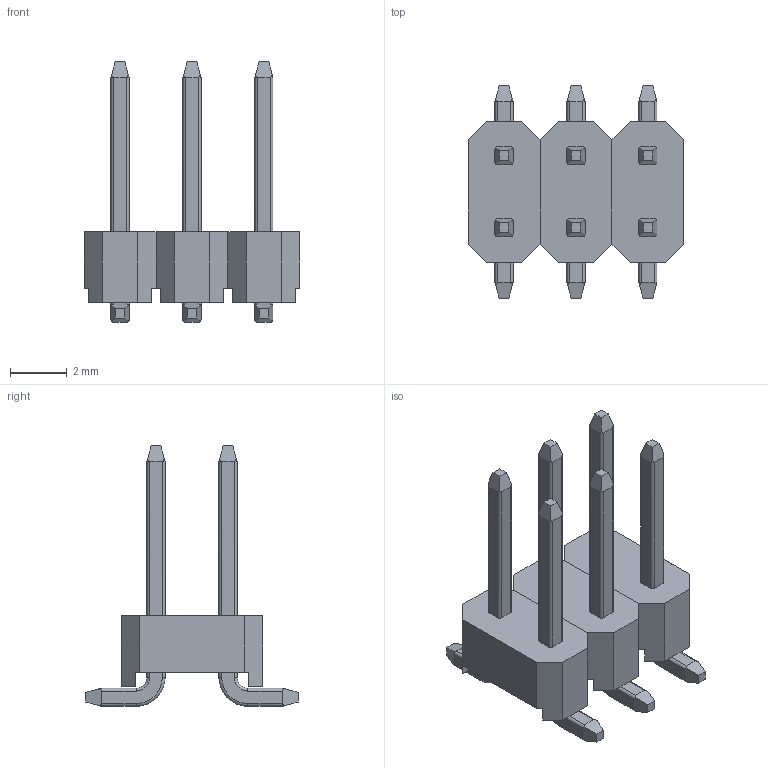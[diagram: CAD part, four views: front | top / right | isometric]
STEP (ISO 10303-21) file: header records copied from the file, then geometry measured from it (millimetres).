
FILE_DESCRIPTION (( 'STEP AP214' ), '1' );
FILE_NAME ('HDR-SMD_4P-P2.54-V-M-R2-C5-S7.4.STEP', '2025-03-21T02:01:50', ( '' ), ( '' ), 'SwSTEP 2.0', 'SolidWorks 2021', '' );
FILE_SCHEMA (( 'AUTOMOTIVE_DESIGN' ));
Length unit declared in the file: millimetre
Products named in the file (1): HDR-SMD_4P-P2.54-V-M-R2-C5-S7.4
Bounding box: 7.62 x 7.5 x 9.2 mm (x, y, z)
Volume: 94.5 mm3; surface area: 291 mm2
Topology: 3 solids, 3 shells, 494 faces, 1323 edges, 866 vertices
Faces by surface type: plane 288, bspline 98, cylinder 84, torus 24
Entity records: 21265 total; most frequent: CARTESIAN_POINT 4278, ORIENTED_EDGE 2646, DIRECTION 1965, EDGE_CURVE 1323, LINE 883, VECTOR 883, VERTEX_POINT 866, AXIS2_PLACEMENT_3D 541
